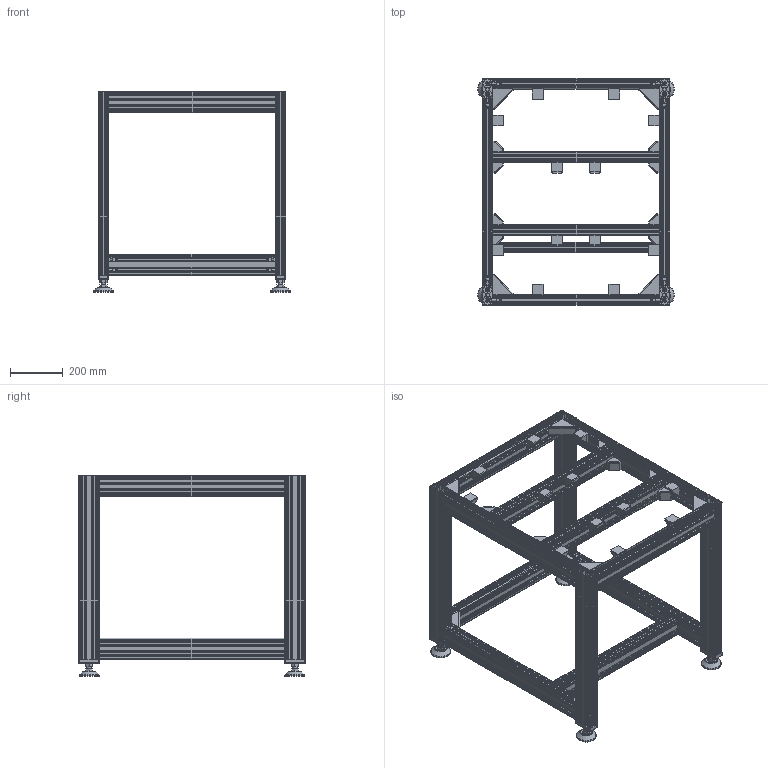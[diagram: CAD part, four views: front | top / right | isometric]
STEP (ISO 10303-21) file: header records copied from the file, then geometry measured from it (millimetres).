
FILE_DESCRIPTION(/* description */ ('Pressenunterbau, 860x710x760 (TxBxH)'),/* implementation_level */ '2;1');
FILE_NAME(/* name */ 'P:\CAD-Daten-für-Kunden\13_SE-Umhausungen-Grundplatte-Unterbau\Pressenunterbau SE93_ANR35836.stp',/* time_stamp */ '2022-05-16T09:49:38+02:00',/* author */ ('tse'),/* organization */ (''),/* preprocessor_version */ 'ST-DEVELOPER v18',/* originating_system */ 'Autodesk Inventor 2020',/* authorisation */ '');
FILE_SCHEMA (('AUTOMOTIVE_DESIGN { 1 0 10303 214 3 1 1 }'));
Products named in the file (3): 35852; Pressenunterbau 860x710x760; Pressenunterbau, 860x710x760_Querstrebe
Assembly tree (3 placements, depth 2):
  35852
    Pressenunterbau 860x710x760
    Pressenunterbau, 860x710x760_Querstrebe  x2
Bounding box: 746 x 860 x 760 mm (x, y, z)
Volume: 13216767.3 mm3; surface area: 7761866.6 mm2
Topology: 3 solids, 3 shells, 4237 faces, 13347 edges, 8415 vertices
Faces by surface type: plane 3417, cylinder 692, cone 56, sphere 56, torus 16
Full cylindrical faces by diameter (mm): 6.8 x60, 8 x36, 13 x8, 14 x26, 14.2 x8, 15 x8, 16 x8, 16.8 x8, 28.057 x4, 76 x4
Entity records: 141426 total; most frequent: CARTESIAN_POINT 30147, ORIENTED_EDGE 25022, DIRECTION 21615, EDGE_CURVE 12511, LINE 9745, VECTOR 9745, VERTEX_POINT 7911, AXIS2_PLACEMENT_3D 5935
